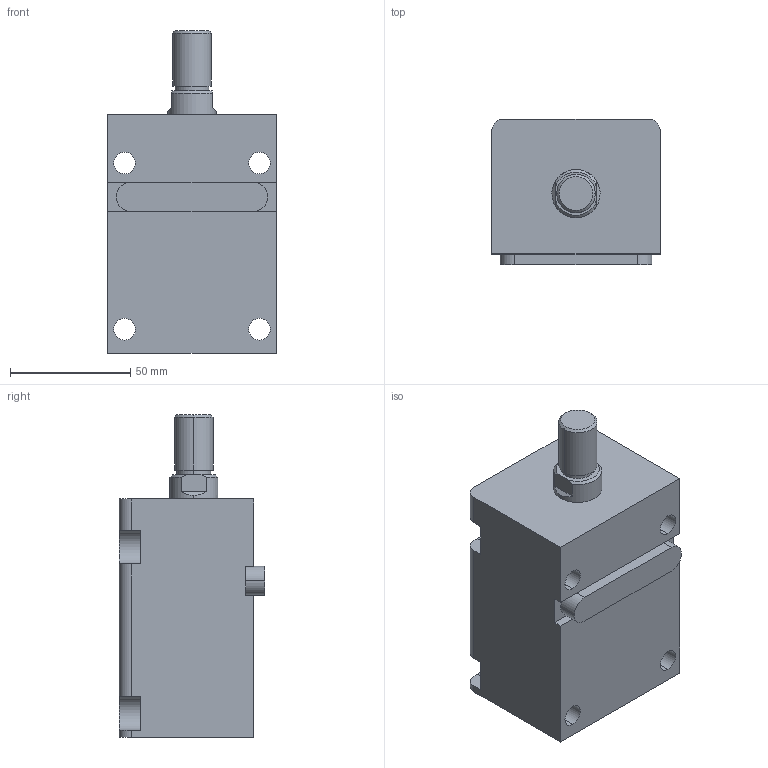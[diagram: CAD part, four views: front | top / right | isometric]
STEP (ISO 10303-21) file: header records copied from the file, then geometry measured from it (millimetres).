
FILE_DESCRIPTION (( 'STEP AP203' ), '1' );
FILE_NAME ('HTB-LA32-45W.STEP', '2019-10-09T06:28:19', ( '微软用户' ), ( '微软中国' ), 'SwSTEP 2.0', 'SolidWorks 2012', '' );
FILE_SCHEMA (( 'CONFIG_CONTROL_DESIGN' ));
Length unit declared in the file: millimetre
Products named in the file (4): HTB-LA32-45掛极; HTB-LA32-45W活塞杆; HTB-LA32-瑩; HTB-LA32-45W
Assembly tree (3 placements, depth 2):
  HTB-LA32-45W
    HTB-LA32-45掛极
    HTB-LA32-45W活塞杆
    HTB-LA32-瑩
Bounding box: 70 x 60.5 x 134 mm (x, y, z)
Volume: 355724.9 mm3; surface area: 60312.1 mm2
Topology: 3 solids, 3 shells, 92 faces, 223 edges, 146 vertices
Faces by surface type: plane 41, cylinder 37, cone 8, torus 6
Entity records: 3159 total; most frequent: DIRECTION 509, CARTESIAN_POINT 495, ORIENTED_EDGE 446, EDGE_CURVE 223, AXIS2_PLACEMENT_3D 196, VERTEX_POINT 146, VECTOR 117, LINE 117
